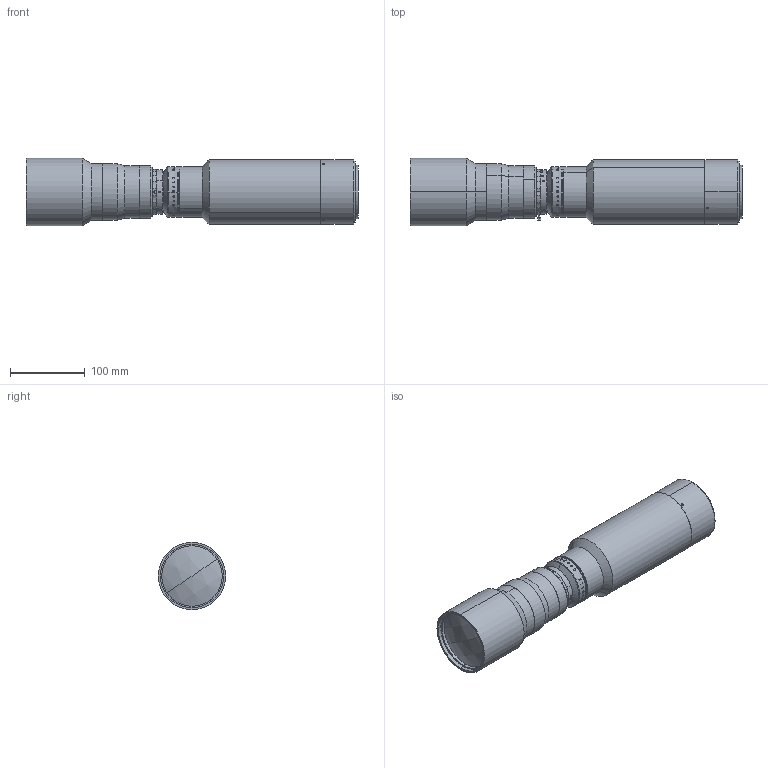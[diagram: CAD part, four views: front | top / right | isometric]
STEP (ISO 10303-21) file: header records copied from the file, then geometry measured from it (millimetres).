
FILE_DESCRIPTION (( 'STEP AP203' ), '1' );
FILE_NAME ('XF-PTL06562-M72-11.48-VI.STEP', '2020-05-09T02:05:18', ( 'puyufan' ), ( '' ), 'SwSTEP 2.0', 'SolidWorks 2014', '' );
FILE_SCHEMA (( 'CONFIG_CONTROL_DESIGN' ));
Length unit declared in the file: millimetre
Products named in the file (1): XF-PTL06562-M72-11.48-VI
Bounding box: 444.43 x 90 x 90 mm (x, y, z)
Surface area: 154785.1 mm2 (no closed solid volume)
Topology: 0 solids, 74 shells, 249 faces, 1804 edges, 1607 vertices
Faces by surface type: cylinder 158, plane 43, cone 38, bspline 8, sphere 2
Entity records: 30498 total; most frequent: CARTESIAN_POINT 18133, DIRECTION 2300, ORIENTED_EDGE 2151, EDGE_CURVE 1800, VERTEX_POINT 1607, AXIS2_PLACEMENT_3D 897, CIRCLE 655, B_SPLINE_CURVE_WITH_KNOTS 639
